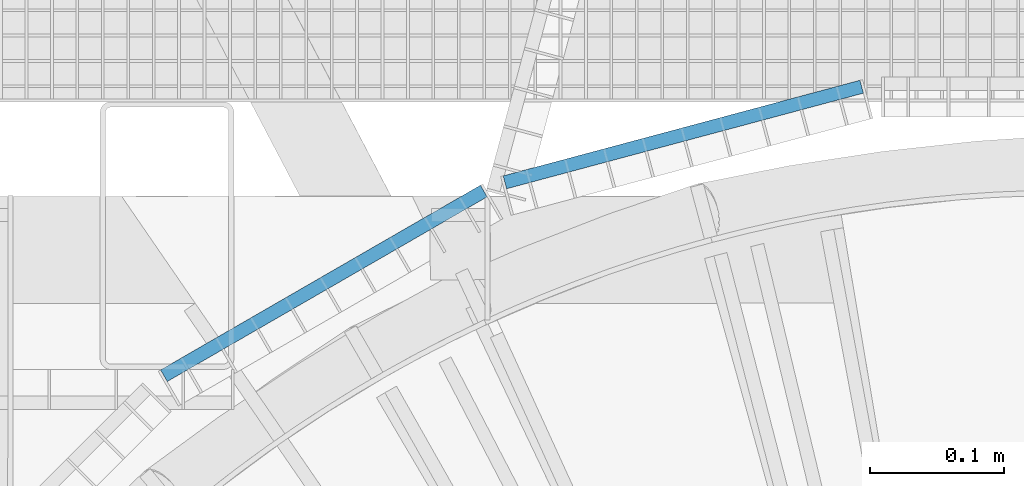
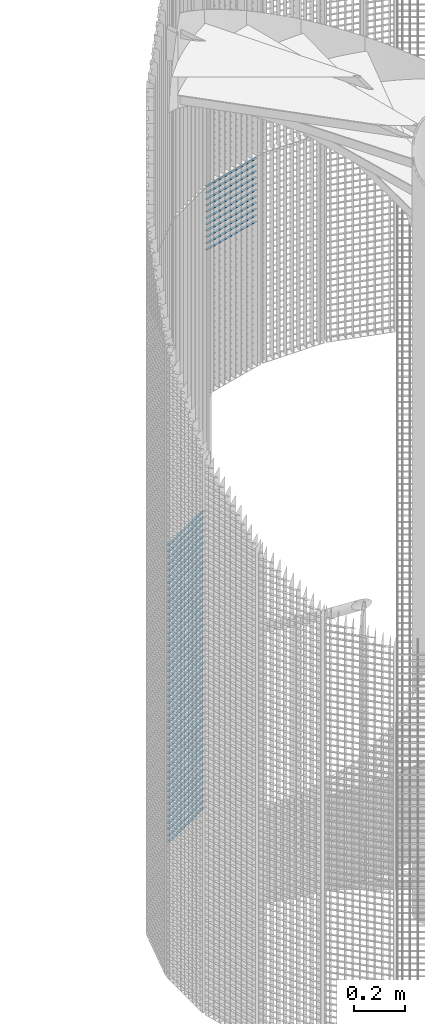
# One storey, part 312 of 1148: 59 beams, 2 elements without a shape of their own.
"""IFC2X3 building model written with IfcOpenShell, lengths in millimetres."""

import ifcopenshell
import ifcopenshell.guid

model = None  # the IFC model being written
_history = None  # IfcOwnerHistory: only IFC2X3 demands one
_inside = {}  # id of a spatial element -> (the spatial element, [elements in it])
_under = {}  # id of a project, library or spatial element -> (it, [spatial elements below it])
_declared = {}  # id of a project -> (the project, [libraries it declares])
_typed = {}  # id of a type object -> (the type object, [elements of that type])
_made_of = {}  # id of a material, layer set ... -> (it, [elements and type objects made of it])


def new_model(schema):
    """Start an empty IFC model of exactly this schema.

    Asked for "IFC4X3", IfcOpenShell would pick the latest addendum, in which some entities
    have other attributes; the version numbers below select the first issue.
    IFC2X3 requires an IfcOwnerHistory on every rooted entity: one is made here for all.
    """
    global model, _history
    if schema == "IFC4X3":
        model = ifcopenshell.file(schema_version=(4, 3, 0, 0))
    else:
        model = ifcopenshell.file(schema=schema)
    _inside.clear()
    _under.clear()
    _declared.clear()
    _typed.clear()
    _made_of.clear()
    _history = None
    if model.schema == "IFC2X3":
        org = make("IfcOrganization", Name="unknown")
        user = make(
            "IfcPersonAndOrganization",
            ThePerson=make("IfcPerson", FamilyName="unknown"),
            TheOrganization=org,
        )
        app = make(
            "IfcApplication",
            ApplicationDeveloper=org,
            Version="unknown",
            ApplicationFullName="unknown",
            ApplicationIdentifier="unknown",
        )
        _history = make(
            "IfcOwnerHistory",
            OwningUser=user,
            OwningApplication=app,
            ChangeAction="ADDED",
            CreationDate=0,
        )
    return model


def make(cls, **values):
    """One entity of the class cls with the attributes given. An attribute that is None is left unset."""
    return model.create_entity(
        cls, **{name: value for name, value in values.items() if value is not None}
    )


def rooted(cls, **values):
    """An entity with a GlobalId (a new one), such as an element, a storey or a relation."""
    return make(cls, GlobalId=ifcopenshell.guid.new(), OwnerHistory=_history, **values)


def si_unit(unit_type, name, prefix=None):
    """IfcSIUnit, for example si_unit("LENGTHUNIT", "METRE", prefix="MILLI")."""
    return make("IfcSIUnit", UnitType=unit_type, Prefix=prefix, Name=name)


def assignment(units):
    """IfcUnitAssignment: the units of a project."""
    return None if units is None else make("IfcUnitAssignment", Units=units)


def point(xyz):
    """IfcCartesianPoint."""
    return None if xyz is None else make("IfcCartesianPoint", Coordinates=xyz)


def direction(xyz):
    """IfcDirection."""
    return None if xyz is None else make("IfcDirection", DirectionRatios=xyz)


def frame(location, z_axis=None, x_axis=None):
    """IfcAxis2Placement3D, a coordinate frame: its origin and axes. An axis left out is left unset."""
    return make(
        "IfcAxis2Placement3D",
        Location=point(location),
        Axis=direction(z_axis),
        RefDirection=direction(x_axis),
    )


def frame_2d(location, x_axis=None):
    """IfcAxis2Placement2D, a coordinate frame in the plane: its origin and x axis."""
    return make(
        "IfcAxis2Placement2D", Location=point(location), RefDirection=direction(x_axis)
    )


def origin_with_axes():
    """The frame at (0, 0, 0) with the z axis (0, 0, 1) and the x axis (1, 0, 0) written out."""
    return frame((0.0, 0.0, 0.0), z_axis=(0.0, 0.0, 1.0), x_axis=(1.0, 0.0, 0.0))


def origin_2d_with_axis():
    """The frame at (0, 0) in the plane with the x axis (1, 0) written out."""
    return frame_2d((0.0, 0.0), x_axis=(1.0, 0.0))


def place(relative_to, where):
    """IfcLocalPlacement: puts the frame where relative to a parent placement (None: the world)."""
    return make(
        "IfcLocalPlacement", PlacementRelTo=relative_to, RelativePlacement=where
    )


def context(
    kind, dimensions, precision=None, world=None, true_north=None, identifier=None
):
    """IfcGeometricRepresentationContext, for example the 3D "Model" context."""
    return make(
        "IfcGeometricRepresentationContext",
        ContextIdentifier=identifier,
        ContextType=kind,
        CoordinateSpaceDimension=dimensions,
        Precision=precision,
        WorldCoordinateSystem=world,
        TrueNorth=true_north,
    )


def subcontext(parent, identifier, kind, view, scale=None):
    """IfcGeometricRepresentationSubContext, for example "Body" below "Model"."""
    return make(
        "IfcGeometricRepresentationSubContext",
        ContextIdentifier=identifier,
        ContextType=kind,
        ParentContext=parent,
        TargetScale=scale,
        TargetView=view,
    )


def project(units=None, contexts=None):
    """IfcProject with its units and contexts."""
    return rooted(
        "IfcProject",
        Name="project",
        RepresentationContexts=contexts,
        UnitsInContext=assignment(units),
    )


def spatial(cls, under=None, at=None, **own):
    """A site, building, storey or space (cls), placed at a placement, below another one or the project."""
    s = rooted(cls, ObjectPlacement=at, **own)
    if under is not None:
        _under.setdefault(under.id(), (under, []))[1].append(s)
    return s


def profile(cls, at=None, kind="AREA", **sizes):
    """A parametric profile (cls). Its sizes go by their IFC names, for example OverallWidth=200.0."""
    return make(cls, ProfileType=kind, Position=at, **sizes)


def rectangle(**sizes):
    """IfcRectangleProfileDef."""
    return profile("IfcRectangleProfileDef", **sizes)


def extrude(swept, where, along, depth):
    """IfcExtrudedAreaSolid: the profile swept, set in the frame where, extruded along a direction by depth."""
    return make(
        "IfcExtrudedAreaSolid",
        SweptArea=swept,
        Position=where,
        ExtrudedDirection=direction(along),
        Depth=depth,
    )


def shape(context_of_items, identifier, shape_type, items):
    """IfcShapeRepresentation: the items that make up one representation, for example the "Body"."""
    return make(
        "IfcShapeRepresentation",
        ContextOfItems=context_of_items,
        RepresentationIdentifier=identifier,
        RepresentationType=shape_type,
        Items=items,
    )


def material(Name=None, Category=None):
    """IfcMaterial."""
    return make("IfcMaterial", Name=Name, Category=Category)


def made_of(thing, what):
    """Note that an element or type object is made of a material, layer set ...; save() writes the relation."""
    if what is not None:
        _made_of.setdefault(what.id(), (what, []))[1].append(thing)
    return thing


def type_object(cls, material=None, **own):
    """A type object (cls), such as IfcWallType, which elements share."""
    return made_of(rooted(cls, **own), material)


def element(
    cls,
    number,
    at=None,
    inside=None,
    cuts=None,
    type_object=None,
    material=None,
    context=None,
    identifier="Body",
    shape_type=None,
    held_by="IfcProductDefinitionShape",
    body=None,
    shapes=None,
    **own,
):
    """One element of the class cls, such as IfcWall. Its Tag is "e" and its number.

    at: its placement. inside: the storey or other place that contains it. cuts: it is an
    opening in that element (IfcRelVoidsElement). A single representation is given by context,
    identifier, shape_type and body (its items); several are given by shapes. held_by: the class
    of the entity that holds the representations. save() writes the other relations.
    """
    e = rooted(cls, Tag="e%d" % number, ObjectPlacement=at, **own)
    if body is not None:
        shapes = [shape(context, identifier, shape_type, body)]
    if shapes is not None:
        e.Representation = make(held_by, Representations=shapes)
    if inside is not None:
        _inside.setdefault(inside.id(), (inside, []))[1].append(e)
    if cuts is not None:
        rooted(
            "IfcRelVoidsElement", RelatingBuildingElement=cuts, RelatedOpeningElement=e
        )
    if type_object is not None:
        _typed.setdefault(type_object.id(), (type_object, []))[1].append(e)
    return made_of(e, material)


def aggregate(whole, parts):
    """IfcRelAggregates: a whole, such as a stair, and the parts it consists of."""
    return rooted("IfcRelAggregates", RelatingObject=whole, RelatedObjects=parts)


def save(model, path):
    """Write the relations noted so far, then the file.

    IfcRelAggregates (storeys below a building ...), IfcRelContainedInSpatialStructure (elements
    in a storey), IfcRelDefinesByType, IfcRelAssociatesMaterial and IfcRelDeclares: one each for
    every whole, place, type object, material and project.
    """
    for whole, parts in _under.values():
        aggregate(whole, parts)
    for where, things in _inside.values():
        rooted(
            "IfcRelContainedInSpatialStructure",
            RelatedElements=things,
            RelatingStructure=where,
        )
    for kind, things in _typed.values():
        rooted("IfcRelDefinesByType", RelatedObjects=things, RelatingType=kind)
    for what, things in _made_of.values():
        rooted("IfcRelAssociatesMaterial", RelatedObjects=things, RelatingMaterial=what)
    for by, libraries in _declared.values():
        rooted("IfcRelDeclares", RelatingContext=by, RelatedDefinitions=libraries)
    model.write(path)


model = new_model("IFC2X3")

# Units and contexts
model_context = context("Model", 3, precision=1e-05, world=origin_with_axes())
body_context = subcontext(model_context, "Body", "Model", "MODEL_VIEW")
ifc_project = project(units=[si_unit("LENGTHUNIT", "METRE", prefix="MILLI"), si_unit("AREAUNIT", "SQUARE_METRE"), si_unit("VOLUMEUNIT", "CUBIC_METRE"), si_unit("MASSUNIT", "GRAM", prefix="KILO"), si_unit("TIMEUNIT", "SECOND"), si_unit("PLANEANGLEUNIT", "RADIAN"), si_unit("SOLIDANGLEUNIT", "STERADIAN"), si_unit("THERMODYNAMICTEMPERATUREUNIT", "DEGREE_CELSIUS"), si_unit("LUMINOUSINTENSITYUNIT", "LUMEN")], contexts=[model_context])

# Site, building, storey
site_placement = place(None, origin_with_axes())
site = spatial("IfcSite", under=ifc_project, at=site_placement, Name="Undefined", CompositionType="ELEMENT")
building_placement = place(site_placement, origin_with_axes())
building = spatial("IfcBuilding", under=site, at=building_placement, Name="Undefined", CompositionType="ELEMENT")
storey_placement = place(building_placement, origin_with_axes())
storey = spatial("IfcBuildingStorey", under=building, at=storey_placement, Name="Undefined", CompositionType="ELEMENT", Elevation=0.0)

# Assembly, beams
assembly_1_placement = place(storey_placement, origin_with_axes())
assembly_1 = element("IfcElementAssembly", 1, at=assembly_1_placement, inside=storey, Name="BORDURE", AssemblyPlace="NOTDEFINED", PredefinedType="NOTDEFINED")
ifc_material = material(Name="STEEL/S235JR")
beam_type = type_object("IfcBeamType", Name="PL2*10", PredefinedType="NOTDEFINED")
beam_1_placement = place(assembly_1_placement, frame((-437.23195545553, 1033.29996828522, 1440.0), z_axis=(-0.49999999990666, 0.866025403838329, 0.0), x_axis=(-0.866025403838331, -0.499999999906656, 0.0)))
beam_1 = element("IfcBeam", 2, at=beam_1_placement, type_object=beam_type, material=ifc_material, Name="ENTRETOISE", context=body_context, shape_type="SweptSolid", body=[
    extrude(rectangle(XDim=2.0, YDim=10.0, at=origin_2d_with_axis()), frame((275.999999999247, 9.09494701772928e-13, 1.53210777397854e-14), z_axis=(-1.0, 0.0, 0.0), x_axis=(0.0, -1.0, 0.0)), (0.0, 0.0, 1.0), 276.0),
])
beam_2_placement = place(assembly_1_placement, frame((-437.23195545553, 1033.29996828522, 1410.0), z_axis=(-0.49999999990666, 0.866025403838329, 0.0), x_axis=(-0.866025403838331, -0.499999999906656, 0.0)))
beam_2 = element("IfcBeam", 3, at=beam_2_placement, type_object=beam_type, material=ifc_material, Name="ENTRETOISE", context=body_context, shape_type="SweptSolid", body=[
    extrude(rectangle(XDim=2.0, YDim=10.0, at=origin_2d_with_axis()), frame((275.999999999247, 9.09494701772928e-13, 1.53210777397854e-14), z_axis=(-1.0, 0.0, 0.0), x_axis=(0.0, -1.0, 0.0)), (0.0, 0.0, 1.0), 276.0),
])
beam_3_placement = place(assembly_1_placement, frame((-437.23195545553, 1033.29996828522, 1380.0), z_axis=(-0.49999999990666, 0.866025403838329, 0.0), x_axis=(-0.866025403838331, -0.499999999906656, 0.0)))
beam_3 = element("IfcBeam", 4, at=beam_3_placement, type_object=beam_type, material=ifc_material, Name="ENTRETOISE", context=body_context, shape_type="SweptSolid", body=[
    extrude(rectangle(XDim=2.0, YDim=10.0, at=origin_2d_with_axis()), frame((275.999999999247, 9.09494701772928e-13, 1.53210777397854e-14), z_axis=(-1.0, 0.0, 0.0), x_axis=(0.0, -1.0, 0.0)), (0.0, 0.0, 1.0), 276.0),
])
beam_4_placement = place(assembly_1_placement, frame((-437.23195545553, 1033.29996828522, 1350.0), z_axis=(-0.49999999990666, 0.866025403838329, 0.0), x_axis=(-0.866025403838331, -0.499999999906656, 0.0)))
beam_4 = element("IfcBeam", 5, at=beam_4_placement, type_object=beam_type, material=ifc_material, Name="ENTRETOISE", context=body_context, shape_type="SweptSolid", body=[
    extrude(rectangle(XDim=2.0, YDim=10.0, at=origin_2d_with_axis()), frame((275.999999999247, 9.09494701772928e-13, 1.53210777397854e-14), z_axis=(-1.0, 0.0, 0.0), x_axis=(0.0, -1.0, 0.0)), (0.0, 0.0, 1.0), 276.0),
])
beam_5_placement = place(assembly_1_placement, frame((-437.23195545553, 1033.29996828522, 1320.0), z_axis=(-0.49999999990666, 0.866025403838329, 0.0), x_axis=(-0.866025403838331, -0.499999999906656, 0.0)))
beam_5 = element("IfcBeam", 6, at=beam_5_placement, type_object=beam_type, material=ifc_material, Name="ENTRETOISE", context=body_context, shape_type="SweptSolid", body=[
    extrude(rectangle(XDim=2.0, YDim=10.0, at=origin_2d_with_axis()), frame((275.999999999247, 9.09494701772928e-13, 1.53210777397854e-14), z_axis=(-1.0, 0.0, 0.0), x_axis=(0.0, -1.0, 0.0)), (0.0, 0.0, 1.0), 276.0),
])
beam_6_placement = place(assembly_1_placement, frame((-437.23195545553, 1033.29996828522, 1290.0), z_axis=(-0.49999999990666, 0.866025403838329, 0.0), x_axis=(-0.866025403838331, -0.499999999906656, 0.0)))
beam_6 = element("IfcBeam", 7, at=beam_6_placement, type_object=beam_type, material=ifc_material, Name="ENTRETOISE", context=body_context, shape_type="SweptSolid", body=[
    extrude(rectangle(XDim=2.0, YDim=10.0, at=origin_2d_with_axis()), frame((275.999999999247, 9.09494701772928e-13, 1.53210777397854e-14), z_axis=(-1.0, 0.0, 0.0), x_axis=(0.0, -1.0, 0.0)), (0.0, 0.0, 1.0), 276.0),
])
beam_7_placement = place(assembly_1_placement, frame((-437.23195545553, 1033.29996828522, 1260.0), z_axis=(-0.49999999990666, 0.866025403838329, 0.0), x_axis=(-0.866025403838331, -0.499999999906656, 0.0)))
beam_7 = element("IfcBeam", 8, at=beam_7_placement, type_object=beam_type, material=ifc_material, Name="ENTRETOISE", context=body_context, shape_type="SweptSolid", body=[
    extrude(rectangle(XDim=2.0, YDim=10.0, at=origin_2d_with_axis()), frame((275.999999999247, 9.09494701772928e-13, 1.53210777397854e-14), z_axis=(-1.0, 0.0, 0.0), x_axis=(0.0, -1.0, 0.0)), (0.0, 0.0, 1.0), 276.0),
])
beam_8_placement = place(assembly_1_placement, frame((-437.23195545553, 1033.29996828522, 1230.0), z_axis=(-0.49999999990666, 0.866025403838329, 0.0), x_axis=(-0.866025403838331, -0.499999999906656, 0.0)))
beam_8 = element("IfcBeam", 9, at=beam_8_placement, type_object=beam_type, material=ifc_material, Name="ENTRETOISE", context=body_context, shape_type="SweptSolid", body=[
    extrude(rectangle(XDim=2.0, YDim=10.0, at=origin_2d_with_axis()), frame((275.999999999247, 9.09494701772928e-13, 1.53210777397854e-14), z_axis=(-1.0, 0.0, 0.0), x_axis=(0.0, -1.0, 0.0)), (0.0, 0.0, 1.0), 276.0),
])
beam_9_placement = place(assembly_1_placement, frame((-437.23195545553, 1033.29996828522, 1200.0), z_axis=(-0.49999999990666, 0.866025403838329, 0.0), x_axis=(-0.866025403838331, -0.499999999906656, 0.0)))
beam_9 = element("IfcBeam", 10, at=beam_9_placement, type_object=beam_type, material=ifc_material, Name="ENTRETOISE", context=body_context, shape_type="SweptSolid", body=[
    extrude(rectangle(XDim=2.0, YDim=10.0, at=origin_2d_with_axis()), frame((275.999999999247, 9.09494701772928e-13, 1.53210777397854e-14), z_axis=(-1.0, 0.0, 0.0), x_axis=(0.0, -1.0, 0.0)), (0.0, 0.0, 1.0), 276.0),
])
beam_10_placement = place(assembly_1_placement, frame((-437.231955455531, 1033.29996828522, 1170.0), z_axis=(-0.49999999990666, 0.866025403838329, 0.0), x_axis=(-0.866025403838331, -0.499999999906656, 0.0)))
beam_10 = element("IfcBeam", 11, at=beam_10_placement, type_object=beam_type, material=ifc_material, Name="ENTRETOISE", context=body_context, shape_type="SweptSolid", body=[
    extrude(rectangle(XDim=2.0, YDim=10.0, at=origin_2d_with_axis()), frame((275.999999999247, 9.09494701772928e-13, 1.53210777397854e-14), z_axis=(-1.0, 0.0, 0.0), x_axis=(0.0, -1.0, 0.0)), (0.0, 0.0, 1.0), 276.0),
])
beam_11_placement = place(assembly_1_placement, frame((-437.231955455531, 1033.29996828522, 1140.0), z_axis=(-0.49999999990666, 0.866025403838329, 0.0), x_axis=(-0.866025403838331, -0.499999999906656, 0.0)))
beam_11 = element("IfcBeam", 12, at=beam_11_placement, type_object=beam_type, material=ifc_material, Name="ENTRETOISE", context=body_context, shape_type="SweptSolid", body=[
    extrude(rectangle(XDim=2.0, YDim=10.0, at=origin_2d_with_axis()), frame((275.999999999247, 9.09494701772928e-13, 1.53210777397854e-14), z_axis=(-1.0, 0.0, 0.0), x_axis=(0.0, -1.0, 0.0)), (0.0, 0.0, 1.0), 276.0),
])
beam_12_placement = place(assembly_1_placement, frame((-437.231955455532, 1033.29996828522, 719.999999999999), z_axis=(-0.49999999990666, 0.866025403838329, 0.0), x_axis=(-0.866025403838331, -0.499999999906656, 0.0)))
beam_12 = element("IfcBeam", 13, at=beam_12_placement, type_object=beam_type, material=ifc_material, Name="ENTRETOISE", context=body_context, shape_type="SweptSolid", body=[
    extrude(rectangle(XDim=2.0, YDim=10.0, at=origin_2d_with_axis()), frame((275.999999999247, 9.09494701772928e-13, 1.53210777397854e-14), z_axis=(-1.0, 0.0, 0.0), x_axis=(0.0, -1.0, 0.0)), (0.0, 0.0, 1.0), 276.0),
])
beam_13_placement = place(assembly_1_placement, frame((-437.231955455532, 1033.29996828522, 689.999999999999), z_axis=(-0.49999999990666, 0.866025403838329, 0.0), x_axis=(-0.866025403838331, -0.499999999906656, 0.0)))
beam_13 = element("IfcBeam", 14, at=beam_13_placement, type_object=beam_type, material=ifc_material, Name="ENTRETOISE", context=body_context, shape_type="SweptSolid", body=[
    extrude(rectangle(XDim=2.0, YDim=10.0, at=origin_2d_with_axis()), frame((275.999999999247, 9.09494701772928e-13, 1.53210777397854e-14), z_axis=(-1.0, 0.0, 0.0), x_axis=(0.0, -1.0, 0.0)), (0.0, 0.0, 1.0), 276.0),
])
beam_14_placement = place(assembly_1_placement, frame((-437.231955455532, 1033.29996828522, 749.999999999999), z_axis=(-0.49999999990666, 0.866025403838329, 0.0), x_axis=(-0.866025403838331, -0.499999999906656, 0.0)))
beam_14 = element("IfcBeam", 15, at=beam_14_placement, type_object=beam_type, material=ifc_material, Name="ENTRETOISE", context=body_context, shape_type="SweptSolid", body=[
    extrude(rectangle(XDim=2.0, YDim=10.0, at=origin_2d_with_axis()), frame((275.999999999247, 9.09494701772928e-13, 1.53210777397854e-14), z_axis=(-1.0, 0.0, 0.0), x_axis=(0.0, -1.0, 0.0)), (0.0, 0.0, 1.0), 276.0),
])
beam_15_placement = place(assembly_1_placement, frame((-437.231955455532, 1033.29996828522, 659.999999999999), z_axis=(-0.49999999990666, 0.866025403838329, 0.0), x_axis=(-0.866025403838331, -0.499999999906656, 0.0)))
beam_15 = element("IfcBeam", 16, at=beam_15_placement, type_object=beam_type, material=ifc_material, Name="ENTRETOISE", context=body_context, shape_type="SweptSolid", body=[
    extrude(rectangle(XDim=2.0, YDim=10.0, at=origin_2d_with_axis()), frame((275.999999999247, 9.09494701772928e-13, 1.53210777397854e-14), z_axis=(-1.0, 0.0, 0.0), x_axis=(0.0, -1.0, 0.0)), (0.0, 0.0, 1.0), 276.0),
])
beam_16_placement = place(assembly_1_placement, frame((-437.231955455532, 1033.29996828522, 629.999999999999), z_axis=(-0.49999999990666, 0.866025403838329, 0.0), x_axis=(-0.866025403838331, -0.499999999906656, 0.0)))
beam_16 = element("IfcBeam", 17, at=beam_16_placement, type_object=beam_type, material=ifc_material, Name="ENTRETOISE", context=body_context, shape_type="SweptSolid", body=[
    extrude(rectangle(XDim=2.0, YDim=10.0, at=origin_2d_with_axis()), frame((275.999999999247, 9.09494701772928e-13, 1.53210777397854e-14), z_axis=(-1.0, 0.0, 0.0), x_axis=(0.0, -1.0, 0.0)), (0.0, 0.0, 1.0), 276.0),
])
beam_17_placement = place(assembly_1_placement, frame((-437.231955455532, 1033.29996828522, 779.999999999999), z_axis=(-0.49999999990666, 0.866025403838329, 0.0), x_axis=(-0.866025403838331, -0.499999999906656, 0.0)))
beam_17 = element("IfcBeam", 18, at=beam_17_placement, type_object=beam_type, material=ifc_material, Name="ENTRETOISE", context=body_context, shape_type="SweptSolid", body=[
    extrude(rectangle(XDim=2.0, YDim=10.0, at=origin_2d_with_axis()), frame((275.999999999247, 9.09494701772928e-13, 1.53210777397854e-14), z_axis=(-1.0, 0.0, 0.0), x_axis=(0.0, -1.0, 0.0)), (0.0, 0.0, 1.0), 276.0),
])
beam_18_placement = place(assembly_1_placement, frame((-437.231955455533, 1033.29996828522, 599.999999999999), z_axis=(-0.49999999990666, 0.866025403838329, 0.0), x_axis=(-0.866025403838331, -0.499999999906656, 0.0)))
beam_18 = element("IfcBeam", 19, at=beam_18_placement, type_object=beam_type, material=ifc_material, Name="ENTRETOISE", context=body_context, shape_type="SweptSolid", body=[
    extrude(rectangle(XDim=2.0, YDim=10.0, at=origin_2d_with_axis()), frame((275.999999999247, 9.09494701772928e-13, 1.53210777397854e-14), z_axis=(-1.0, 0.0, 0.0), x_axis=(0.0, -1.0, 0.0)), (0.0, 0.0, 1.0), 276.0),
])
beam_19_placement = place(assembly_1_placement, frame((-437.231955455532, 1033.29996828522, 809.999999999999), z_axis=(-0.49999999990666, 0.866025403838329, 0.0), x_axis=(-0.866025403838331, -0.499999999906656, 0.0)))
beam_19 = element("IfcBeam", 20, at=beam_19_placement, type_object=beam_type, material=ifc_material, Name="ENTRETOISE", context=body_context, shape_type="SweptSolid", body=[
    extrude(rectangle(XDim=2.0, YDim=10.0, at=origin_2d_with_axis()), frame((275.999999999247, 9.09494701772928e-13, 1.53210777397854e-14), z_axis=(-1.0, 0.0, 0.0), x_axis=(0.0, -1.0, 0.0)), (0.0, 0.0, 1.0), 276.0),
])
beam_20_placement = place(assembly_1_placement, frame((-437.231955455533, 1033.29996828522, 569.999999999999), z_axis=(-0.49999999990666, 0.866025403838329, 0.0), x_axis=(-0.866025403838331, -0.499999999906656, 0.0)))
beam_20 = element("IfcBeam", 21, at=beam_20_placement, type_object=beam_type, material=ifc_material, Name="ENTRETOISE", context=body_context, shape_type="SweptSolid", body=[
    extrude(rectangle(XDim=2.0, YDim=10.0, at=origin_2d_with_axis()), frame((275.999999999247, 9.09494701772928e-13, 1.53210777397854e-14), z_axis=(-1.0, 0.0, 0.0), x_axis=(0.0, -1.0, 0.0)), (0.0, 0.0, 1.0), 276.0),
])
beam_21_placement = place(assembly_1_placement, frame((-437.231955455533, 1033.29996828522, 539.999999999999), z_axis=(-0.49999999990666, 0.866025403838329, 0.0), x_axis=(-0.866025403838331, -0.499999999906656, 0.0)))
beam_21 = element("IfcBeam", 22, at=beam_21_placement, type_object=beam_type, material=ifc_material, Name="ENTRETOISE", context=body_context, shape_type="SweptSolid", body=[
    extrude(rectangle(XDim=2.0, YDim=10.0, at=origin_2d_with_axis()), frame((275.999999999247, 9.09494701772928e-13, 1.53210777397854e-14), z_axis=(-1.0, 0.0, 0.0), x_axis=(0.0, -1.0, 0.0)), (0.0, 0.0, 1.0), 276.0),
])
beam_22_placement = place(assembly_1_placement, frame((-437.231955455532, 1033.29996828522, 839.999999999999), z_axis=(-0.49999999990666, 0.866025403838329, 0.0), x_axis=(-0.866025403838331, -0.499999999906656, 0.0)))
beam_22 = element("IfcBeam", 23, at=beam_22_placement, type_object=beam_type, material=ifc_material, Name="ENTRETOISE", context=body_context, shape_type="SweptSolid", body=[
    extrude(rectangle(XDim=2.0, YDim=10.0, at=origin_2d_with_axis()), frame((275.999999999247, 9.09494701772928e-13, 1.53210777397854e-14), z_axis=(-1.0, 0.0, 0.0), x_axis=(0.0, -1.0, 0.0)), (0.0, 0.0, 1.0), 276.0),
])
beam_23_placement = place(assembly_1_placement, frame((-437.231955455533, 1033.29996828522, 509.999999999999), z_axis=(-0.49999999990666, 0.866025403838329, 0.0), x_axis=(-0.866025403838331, -0.499999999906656, 0.0)))
beam_23 = element("IfcBeam", 24, at=beam_23_placement, type_object=beam_type, material=ifc_material, Name="ENTRETOISE", context=body_context, shape_type="SweptSolid", body=[
    extrude(rectangle(XDim=2.0, YDim=10.0, at=origin_2d_with_axis()), frame((275.999999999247, 9.09494701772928e-13, 1.53210777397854e-14), z_axis=(-1.0, 0.0, 0.0), x_axis=(0.0, -1.0, 0.0)), (0.0, 0.0, 1.0), 276.0),
])
beam_24_placement = place(assembly_1_placement, frame((-437.231955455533, 1033.29996828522, 479.999999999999), z_axis=(-0.49999999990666, 0.866025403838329, 0.0), x_axis=(-0.866025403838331, -0.499999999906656, 0.0)))
beam_24 = element("IfcBeam", 25, at=beam_24_placement, type_object=beam_type, material=ifc_material, Name="ENTRETOISE", context=body_context, shape_type="SweptSolid", body=[
    extrude(rectangle(XDim=2.0, YDim=10.0, at=origin_2d_with_axis()), frame((275.999999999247, 9.09494701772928e-13, 1.53210777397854e-14), z_axis=(-1.0, 0.0, 0.0), x_axis=(0.0, -1.0, 0.0)), (0.0, 0.0, 1.0), 276.0),
])
beam_25_placement = place(assembly_1_placement, frame((-437.231955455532, 1033.29996828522, 869.999999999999), z_axis=(-0.49999999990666, 0.866025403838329, 0.0), x_axis=(-0.866025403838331, -0.499999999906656, 0.0)))
beam_25 = element("IfcBeam", 26, at=beam_25_placement, type_object=beam_type, material=ifc_material, Name="ENTRETOISE", context=body_context, shape_type="SweptSolid", body=[
    extrude(rectangle(XDim=2.0, YDim=10.0, at=origin_2d_with_axis()), frame((275.999999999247, 9.09494701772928e-13, 1.53210777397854e-14), z_axis=(-1.0, 0.0, 0.0), x_axis=(0.0, -1.0, 0.0)), (0.0, 0.0, 1.0), 276.0),
])
beam_26_placement = place(assembly_1_placement, frame((-437.231955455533, 1033.29996828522, 449.999999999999), z_axis=(-0.49999999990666, 0.866025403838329, 0.0), x_axis=(-0.866025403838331, -0.499999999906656, 0.0)))
beam_26 = element("IfcBeam", 27, at=beam_26_placement, type_object=beam_type, material=ifc_material, Name="ENTRETOISE", context=body_context, shape_type="SweptSolid", body=[
    extrude(rectangle(XDim=2.0, YDim=10.0, at=origin_2d_with_axis()), frame((275.999999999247, 9.09494701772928e-13, 1.53210777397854e-14), z_axis=(-1.0, 0.0, 0.0), x_axis=(0.0, -1.0, 0.0)), (0.0, 0.0, 1.0), 276.0),
])
beam_27_placement = place(assembly_1_placement, frame((-437.231955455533, 1033.29996828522, 419.999999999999), z_axis=(-0.49999999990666, 0.866025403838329, 0.0), x_axis=(-0.866025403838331, -0.499999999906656, 0.0)))
beam_27 = element("IfcBeam", 28, at=beam_27_placement, type_object=beam_type, material=ifc_material, Name="ENTRETOISE", context=body_context, shape_type="SweptSolid", body=[
    extrude(rectangle(XDim=2.0, YDim=10.0, at=origin_2d_with_axis()), frame((275.999999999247, 9.09494701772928e-13, 1.53210777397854e-14), z_axis=(-1.0, 0.0, 0.0), x_axis=(0.0, -1.0, 0.0)), (0.0, 0.0, 1.0), 276.0),
])
beam_28_placement = place(assembly_1_placement, frame((-437.231955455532, 1033.29996828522, 899.999999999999), z_axis=(-0.49999999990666, 0.866025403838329, 0.0), x_axis=(-0.866025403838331, -0.499999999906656, 0.0)))
beam_28 = element("IfcBeam", 29, at=beam_28_placement, type_object=beam_type, material=ifc_material, Name="ENTRETOISE", context=body_context, shape_type="SweptSolid", body=[
    extrude(rectangle(XDim=2.0, YDim=10.0, at=origin_2d_with_axis()), frame((275.999999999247, 9.09494701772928e-13, 1.53210777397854e-14), z_axis=(-1.0, 0.0, 0.0), x_axis=(0.0, -1.0, 0.0)), (0.0, 0.0, 1.0), 276.0),
])
beam_29_placement = place(assembly_1_placement, frame((-437.231955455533, 1033.29996828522, 389.999999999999), z_axis=(-0.49999999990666, 0.866025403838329, 0.0), x_axis=(-0.866025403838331, -0.499999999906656, 0.0)))
beam_29 = element("IfcBeam", 30, at=beam_29_placement, type_object=beam_type, material=ifc_material, Name="ENTRETOISE", context=body_context, shape_type="SweptSolid", body=[
    extrude(rectangle(XDim=2.0, YDim=10.0, at=origin_2d_with_axis()), frame((275.999999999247, 9.09494701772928e-13, 1.53210777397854e-14), z_axis=(-1.0, 0.0, 0.0), x_axis=(0.0, -1.0, 0.0)), (0.0, 0.0, 1.0), 276.0),
])
beam_30_placement = place(assembly_1_placement, frame((-437.231955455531, 1033.29996828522, 929.999999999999), z_axis=(-0.49999999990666, 0.866025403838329, 0.0), x_axis=(-0.866025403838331, -0.499999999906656, 0.0)))
beam_30 = element("IfcBeam", 31, at=beam_30_placement, type_object=beam_type, material=ifc_material, Name="ENTRETOISE", context=body_context, shape_type="SweptSolid", body=[
    extrude(rectangle(XDim=2.0, YDim=10.0, at=origin_2d_with_axis()), frame((275.999999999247, 9.09494701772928e-13, 1.53210777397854e-14), z_axis=(-1.0, 0.0, 0.0), x_axis=(0.0, -1.0, 0.0)), (0.0, 0.0, 1.0), 276.0),
])
beam_31_placement = place(assembly_1_placement, frame((-437.231955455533, 1033.29996828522, 359.999999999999), z_axis=(-0.49999999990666, 0.866025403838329, 0.0), x_axis=(-0.866025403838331, -0.499999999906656, 0.0)))
beam_31 = element("IfcBeam", 32, at=beam_31_placement, type_object=beam_type, material=ifc_material, Name="ENTRETOISE", context=body_context, shape_type="SweptSolid", body=[
    extrude(rectangle(XDim=2.0, YDim=10.0, at=origin_2d_with_axis()), frame((275.999999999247, 9.09494701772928e-13, 1.53210777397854e-14), z_axis=(-1.0, 0.0, 0.0), x_axis=(0.0, -1.0, 0.0)), (0.0, 0.0, 1.0), 276.0),
])
beam_32_placement = place(assembly_1_placement, frame((-437.231955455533, 1033.29996828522, 329.999999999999), z_axis=(-0.49999999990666, 0.866025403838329, 0.0), x_axis=(-0.866025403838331, -0.499999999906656, 0.0)))
beam_32 = element("IfcBeam", 33, at=beam_32_placement, type_object=beam_type, material=ifc_material, Name="ENTRETOISE", context=body_context, shape_type="SweptSolid", body=[
    extrude(rectangle(XDim=2.0, YDim=10.0, at=origin_2d_with_axis()), frame((275.999999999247, 9.09494701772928e-13, 1.53210777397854e-14), z_axis=(-1.0, 0.0, 0.0), x_axis=(0.0, -1.0, 0.0)), (0.0, 0.0, 1.0), 276.0),
])
beam_33_placement = place(assembly_1_placement, frame((-437.231955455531, 1033.29996828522, 959.999999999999), z_axis=(-0.49999999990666, 0.866025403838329, 0.0), x_axis=(-0.866025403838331, -0.499999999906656, 0.0)))
beam_33 = element("IfcBeam", 34, at=beam_33_placement, type_object=beam_type, material=ifc_material, Name="ENTRETOISE", context=body_context, shape_type="SweptSolid", body=[
    extrude(rectangle(XDim=2.0, YDim=10.0, at=origin_2d_with_axis()), frame((275.999999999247, 9.09494701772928e-13, 1.53210777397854e-14), z_axis=(-1.0, 0.0, 0.0), x_axis=(0.0, -1.0, 0.0)), (0.0, 0.0, 1.0), 276.0),
])
beam_34_placement = place(assembly_1_placement, frame((-437.231955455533, 1033.29996828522, 299.999999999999), z_axis=(-0.49999999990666, 0.866025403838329, 0.0), x_axis=(-0.866025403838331, -0.499999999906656, 0.0)))
beam_34 = element("IfcBeam", 35, at=beam_34_placement, type_object=beam_type, material=ifc_material, Name="ENTRETOISE", context=body_context, shape_type="SweptSolid", body=[
    extrude(rectangle(XDim=2.0, YDim=10.0, at=origin_2d_with_axis()), frame((275.999999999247, 9.09494701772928e-13, 1.53210777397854e-14), z_axis=(-1.0, 0.0, 0.0), x_axis=(0.0, -1.0, 0.0)), (0.0, 0.0, 1.0), 276.0),
])
beam_35_placement = place(assembly_1_placement, frame((-437.231955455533, 1033.29996828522, 269.999999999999), z_axis=(-0.49999999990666, 0.866025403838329, 0.0), x_axis=(-0.866025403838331, -0.499999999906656, 0.0)))
beam_35 = element("IfcBeam", 36, at=beam_35_placement, type_object=beam_type, material=ifc_material, Name="ENTRETOISE", context=body_context, shape_type="SweptSolid", body=[
    extrude(rectangle(XDim=2.0, YDim=10.0, at=origin_2d_with_axis()), frame((275.999999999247, 9.09494701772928e-13, 1.53210777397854e-14), z_axis=(-1.0, 0.0, 0.0), x_axis=(0.0, -1.0, 0.0)), (0.0, 0.0, 1.0), 276.0),
])
beam_36_placement = place(assembly_1_placement, frame((-437.231955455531, 1033.29996828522, 989.999999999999), z_axis=(-0.49999999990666, 0.866025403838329, 0.0), x_axis=(-0.866025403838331, -0.499999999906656, 0.0)))
beam_36 = element("IfcBeam", 37, at=beam_36_placement, type_object=beam_type, material=ifc_material, Name="ENTRETOISE", context=body_context, shape_type="SweptSolid", body=[
    extrude(rectangle(XDim=2.0, YDim=10.0, at=origin_2d_with_axis()), frame((275.999999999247, 9.09494701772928e-13, 1.53210777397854e-14), z_axis=(-1.0, 0.0, 0.0), x_axis=(0.0, -1.0, 0.0)), (0.0, 0.0, 1.0), 276.0),
])
beam_37_placement = place(assembly_1_placement, frame((-437.231955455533, 1033.29996828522, 239.999999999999), z_axis=(-0.49999999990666, 0.866025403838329, 0.0), x_axis=(-0.866025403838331, -0.499999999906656, 0.0)))
beam_37 = element("IfcBeam", 38, at=beam_37_placement, type_object=beam_type, material=ifc_material, Name="ENTRETOISE", context=body_context, shape_type="SweptSolid", body=[
    extrude(rectangle(XDim=2.0, YDim=10.0, at=origin_2d_with_axis()), frame((275.999999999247, 9.09494701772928e-13, 1.53210777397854e-14), z_axis=(-1.0, 0.0, 0.0), x_axis=(0.0, -1.0, 0.0)), (0.0, 0.0, 1.0), 276.0),
])
beam_38_placement = place(assembly_1_placement, frame((-437.231955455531, 1033.29996828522, 1020.0), z_axis=(-0.49999999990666, 0.866025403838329, 0.0), x_axis=(-0.866025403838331, -0.499999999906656, 0.0)))
beam_38 = element("IfcBeam", 39, at=beam_38_placement, type_object=beam_type, material=ifc_material, Name="ENTRETOISE", context=body_context, shape_type="SweptSolid", body=[
    extrude(rectangle(XDim=2.0, YDim=10.0, at=origin_2d_with_axis()), frame((275.999999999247, 9.09494701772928e-13, 1.53210777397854e-14), z_axis=(-1.0, 0.0, 0.0), x_axis=(0.0, -1.0, 0.0)), (0.0, 0.0, 1.0), 276.0),
])
beam_39_placement = place(assembly_1_placement, frame((-437.231955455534, 1033.29996828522, 209.999999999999), z_axis=(-0.49999999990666, 0.866025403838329, 0.0), x_axis=(-0.866025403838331, -0.499999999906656, 0.0)))
beam_39 = element("IfcBeam", 40, at=beam_39_placement, type_object=beam_type, material=ifc_material, Name="ENTRETOISE", context=body_context, shape_type="SweptSolid", body=[
    extrude(rectangle(XDim=2.0, YDim=10.0, at=origin_2d_with_axis()), frame((275.999999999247, 9.09494701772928e-13, 1.53210777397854e-14), z_axis=(-1.0, 0.0, 0.0), x_axis=(0.0, -1.0, 0.0)), (0.0, 0.0, 1.0), 276.0),
])
beam_40_placement = place(assembly_1_placement, frame((-437.231955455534, 1033.29996828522, 179.999999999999), z_axis=(-0.49999999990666, 0.866025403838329, 0.0), x_axis=(-0.866025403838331, -0.499999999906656, 0.0)))
beam_40 = element("IfcBeam", 41, at=beam_40_placement, type_object=beam_type, material=ifc_material, Name="ENTRETOISE", context=body_context, shape_type="SweptSolid", body=[
    extrude(rectangle(XDim=2.0, YDim=10.0, at=origin_2d_with_axis()), frame((275.999999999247, 9.09494701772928e-13, 1.53210777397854e-14), z_axis=(-1.0, 0.0, 0.0), x_axis=(0.0, -1.0, 0.0)), (0.0, 0.0, 1.0), 276.0),
])
beam_41_placement = place(assembly_1_placement, frame((-437.231955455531, 1033.29996828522, 1050.0), z_axis=(-0.49999999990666, 0.866025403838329, 0.0), x_axis=(-0.866025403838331, -0.499999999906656, 0.0)))
beam_41 = element("IfcBeam", 42, at=beam_41_placement, type_object=beam_type, material=ifc_material, Name="ENTRETOISE", context=body_context, shape_type="SweptSolid", body=[
    extrude(rectangle(XDim=2.0, YDim=10.0, at=origin_2d_with_axis()), frame((275.999999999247, 9.09494701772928e-13, 1.53210777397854e-14), z_axis=(-1.0, 0.0, 0.0), x_axis=(0.0, -1.0, 0.0)), (0.0, 0.0, 1.0), 276.0),
])
beam_42_placement = place(assembly_1_placement, frame((-437.231955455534, 1033.29996828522, 149.999999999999), z_axis=(-0.49999999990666, 0.866025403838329, 0.0), x_axis=(-0.866025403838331, -0.499999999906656, 0.0)))
beam_42 = element("IfcBeam", 43, at=beam_42_placement, type_object=beam_type, material=ifc_material, Name="ENTRETOISE", context=body_context, shape_type="SweptSolid", body=[
    extrude(rectangle(XDim=2.0, YDim=10.0, at=origin_2d_with_axis()), frame((275.999999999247, 9.09494701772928e-13, 1.53210777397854e-14), z_axis=(-1.0, 0.0, 0.0), x_axis=(0.0, -1.0, 0.0)), (0.0, 0.0, 1.0), 276.0),
])
beam_43_placement = place(assembly_1_placement, frame((-437.231955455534, 1033.29996828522, 119.999999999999), z_axis=(-0.49999999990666, 0.866025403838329, 0.0), x_axis=(-0.866025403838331, -0.499999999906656, 0.0)))
beam_43 = element("IfcBeam", 44, at=beam_43_placement, type_object=beam_type, material=ifc_material, Name="ENTRETOISE", context=body_context, shape_type="SweptSolid", body=[
    extrude(rectangle(XDim=2.0, YDim=10.0, at=origin_2d_with_axis()), frame((275.999999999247, 9.09494701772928e-13, 1.53210777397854e-14), z_axis=(-1.0, 0.0, 0.0), x_axis=(0.0, -1.0, 0.0)), (0.0, 0.0, 1.0), 276.0),
])
beam_44_placement = place(assembly_1_placement, frame((-437.231955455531, 1033.29996828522, 1080.0), z_axis=(-0.49999999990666, 0.866025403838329, 0.0), x_axis=(-0.866025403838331, -0.499999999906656, 0.0)))
beam_44 = element("IfcBeam", 45, at=beam_44_placement, type_object=beam_type, material=ifc_material, Name="ENTRETOISE", context=body_context, shape_type="SweptSolid", body=[
    extrude(rectangle(XDim=2.0, YDim=10.0, at=origin_2d_with_axis()), frame((275.999999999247, 9.09494701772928e-13, 1.53210777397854e-14), z_axis=(-1.0, 0.0, 0.0), x_axis=(0.0, -1.0, 0.0)), (0.0, 0.0, 1.0), 276.0),
])
beam_45_placement = place(assembly_1_placement, frame((-437.231955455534, 1033.29996828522, 89.9999999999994), z_axis=(-0.49999999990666, 0.866025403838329, 0.0), x_axis=(-0.866025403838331, -0.499999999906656, 0.0)))
beam_45 = element("IfcBeam", 46, at=beam_45_placement, type_object=beam_type, material=ifc_material, Name="ENTRETOISE", context=body_context, shape_type="SweptSolid", body=[
    extrude(rectangle(XDim=2.0, YDim=10.0, at=origin_2d_with_axis()), frame((275.999999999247, 9.09494701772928e-13, 1.53210777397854e-14), z_axis=(-1.0, 0.0, 0.0), x_axis=(0.0, -1.0, 0.0)), (0.0, 0.0, 1.0), 276.0),
])
beam_46_placement = place(assembly_1_placement, frame((-437.231955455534, 1033.29996828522, 59.9999999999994), z_axis=(-0.49999999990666, 0.866025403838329, 0.0), x_axis=(-0.866025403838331, -0.499999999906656, 0.0)))
beam_46 = element("IfcBeam", 47, at=beam_46_placement, type_object=beam_type, material=ifc_material, Name="ENTRETOISE", context=body_context, shape_type="SweptSolid", body=[
    extrude(rectangle(XDim=2.0, YDim=10.0, at=origin_2d_with_axis()), frame((275.999999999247, 9.09494701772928e-13, 1.53210777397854e-14), z_axis=(-1.0, 0.0, 0.0), x_axis=(0.0, -1.0, 0.0)), (0.0, 0.0, 1.0), 276.0),
])
beam_47_placement = place(assembly_1_placement, frame((-437.231955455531, 1033.29996828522, 1110.0), z_axis=(-0.49999999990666, 0.866025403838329, 0.0), x_axis=(-0.866025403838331, -0.499999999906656, 0.0)))
beam_47 = element("IfcBeam", 48, at=beam_47_placement, type_object=beam_type, material=ifc_material, Name="ENTRETOISE", context=body_context, shape_type="SweptSolid", body=[
    extrude(rectangle(XDim=2.0, YDim=10.0, at=origin_2d_with_axis()), frame((275.999999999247, 9.09494701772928e-13, 1.53210777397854e-14), z_axis=(-1.0, 0.0, 0.0), x_axis=(0.0, -1.0, 0.0)), (0.0, 0.0, 1.0), 276.0),
])
beam_48_placement = place(assembly_1_placement, frame((-437.231955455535, 1033.29996828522, 29.9999999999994), z_axis=(-0.49999999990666, 0.866025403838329, 0.0), x_axis=(-0.866025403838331, -0.499999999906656, 0.0)))
beam_48 = element("IfcBeam", 49, at=beam_48_placement, type_object=beam_type, material=ifc_material, Name="ENTRETOISE", context=body_context, shape_type="SweptSolid", body=[
    extrude(rectangle(XDim=2.0, YDim=10.0, at=origin_2d_with_axis()), frame((275.999999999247, 9.09494701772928e-13, 1.53210777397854e-14), z_axis=(-1.0, 0.0, 0.0), x_axis=(0.0, -1.0, 0.0)), (0.0, 0.0, 1.0), 276.0),
])
aggregate(assembly_1, [beam_1, beam_2, beam_3, beam_4, beam_5, beam_6, beam_7, beam_8, beam_9, beam_10, beam_11, beam_12, beam_13, beam_14, beam_15, beam_16, beam_17, beam_18, beam_19, beam_20, beam_21, beam_22, beam_23, beam_24, beam_25, beam_26, beam_27, beam_28, beam_29, beam_30, beam_31, beam_32, beam_33, beam_34, beam_35, beam_36, beam_37, beam_38, beam_39, beam_40, beam_41, beam_42, beam_43, beam_44, beam_45, beam_46, beam_47, beam_48])

assembly_2_placement = place(storey_placement, origin_with_axes())
assembly_2 = element("IfcElementAssembly", 50, at=assembly_2_placement, inside=storey, Name="BORDURE", AssemblyPlace="NOTDEFINED", PredefinedType="NOTDEFINED")
beam_49_placement = place(assembly_2_placement, frame((-154.895926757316, 1111.25508286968, 2970.0), z_axis=(-0.258819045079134, 0.965925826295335, 0.0), x_axis=(-0.965925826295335, -0.258819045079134, 0.0)))
beam_49 = element("IfcBeam", 51, at=beam_49_placement, type_object=beam_type, material=ifc_material, Name="ENTRETOISE", context=body_context, shape_type="SweptSolid", body=[
    extrude(rectangle(XDim=2.0, YDim=10.0, at=origin_2d_with_axis()), frame((275.999999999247, 9.09494701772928e-13, 1.53210777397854e-14), z_axis=(-1.0, 0.0, 0.0), x_axis=(0.0, -1.0, 0.0)), (0.0, 0.0, 1.0), 276.0),
])
beam_50_placement = place(assembly_2_placement, frame((-154.895926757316, 1111.25508286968, 2940.0), z_axis=(-0.258819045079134, 0.965925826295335, 0.0), x_axis=(-0.965925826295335, -0.258819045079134, 0.0)))
beam_50 = element("IfcBeam", 52, at=beam_50_placement, type_object=beam_type, material=ifc_material, Name="ENTRETOISE", context=body_context, shape_type="SweptSolid", body=[
    extrude(rectangle(XDim=2.0, YDim=10.0, at=origin_2d_with_axis()), frame((275.999999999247, 9.09494701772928e-13, 1.53210777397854e-14), z_axis=(-1.0, 0.0, 0.0), x_axis=(0.0, -1.0, 0.0)), (0.0, 0.0, 1.0), 276.0),
])
beam_51_placement = place(assembly_2_placement, frame((-154.895926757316, 1111.25508286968, 2910.0), z_axis=(-0.258819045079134, 0.965925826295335, 0.0), x_axis=(-0.965925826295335, -0.258819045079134, 0.0)))
beam_51 = element("IfcBeam", 53, at=beam_51_placement, type_object=beam_type, material=ifc_material, Name="ENTRETOISE", context=body_context, shape_type="SweptSolid", body=[
    extrude(rectangle(XDim=2.0, YDim=10.0, at=origin_2d_with_axis()), frame((275.999999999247, 9.09494701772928e-13, 1.53210777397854e-14), z_axis=(-1.0, 0.0, 0.0), x_axis=(0.0, -1.0, 0.0)), (0.0, 0.0, 1.0), 276.0),
])
beam_52_placement = place(assembly_2_placement, frame((-154.895926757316, 1111.25508286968, 2880.0), z_axis=(-0.258819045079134, 0.965925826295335, 0.0), x_axis=(-0.965925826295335, -0.258819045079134, 0.0)))
beam_52 = element("IfcBeam", 54, at=beam_52_placement, type_object=beam_type, material=ifc_material, Name="ENTRETOISE", context=body_context, shape_type="SweptSolid", body=[
    extrude(rectangle(XDim=2.0, YDim=10.0, at=origin_2d_with_axis()), frame((275.999999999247, 9.09494701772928e-13, 1.53210777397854e-14), z_axis=(-1.0, 0.0, 0.0), x_axis=(0.0, -1.0, 0.0)), (0.0, 0.0, 1.0), 276.0),
])
beam_53_placement = place(assembly_2_placement, frame((-154.895926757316, 1111.25508286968, 2850.0), z_axis=(-0.258819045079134, 0.965925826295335, 0.0), x_axis=(-0.965925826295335, -0.258819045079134, 0.0)))
beam_53 = element("IfcBeam", 55, at=beam_53_placement, type_object=beam_type, material=ifc_material, Name="ENTRETOISE", context=body_context, shape_type="SweptSolid", body=[
    extrude(rectangle(XDim=2.0, YDim=10.0, at=origin_2d_with_axis()), frame((275.999999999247, 9.09494701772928e-13, 1.53210777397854e-14), z_axis=(-1.0, 0.0, 0.0), x_axis=(0.0, -1.0, 0.0)), (0.0, 0.0, 1.0), 276.0),
])
beam_54_placement = place(assembly_2_placement, frame((-154.895926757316, 1111.25508286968, 2820.0), z_axis=(-0.258819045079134, 0.965925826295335, 0.0), x_axis=(-0.965925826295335, -0.258819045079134, 0.0)))
beam_54 = element("IfcBeam", 56, at=beam_54_placement, type_object=beam_type, material=ifc_material, Name="ENTRETOISE", context=body_context, shape_type="SweptSolid", body=[
    extrude(rectangle(XDim=2.0, YDim=10.0, at=origin_2d_with_axis()), frame((275.999999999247, 9.09494701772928e-13, 1.53210777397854e-14), z_axis=(-1.0, 0.0, 0.0), x_axis=(0.0, -1.0, 0.0)), (0.0, 0.0, 1.0), 276.0),
])
beam_55_placement = place(assembly_2_placement, frame((-154.895926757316, 1111.25508286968, 2790.0), z_axis=(-0.258819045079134, 0.965925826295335, 0.0), x_axis=(-0.965925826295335, -0.258819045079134, 0.0)))
beam_55 = element("IfcBeam", 57, at=beam_55_placement, type_object=beam_type, material=ifc_material, Name="ENTRETOISE", context=body_context, shape_type="SweptSolid", body=[
    extrude(rectangle(XDim=2.0, YDim=10.0, at=origin_2d_with_axis()), frame((275.999999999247, 9.09494701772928e-13, 1.53210777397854e-14), z_axis=(-1.0, 0.0, 0.0), x_axis=(0.0, -1.0, 0.0)), (0.0, 0.0, 1.0), 276.0),
])
beam_56_placement = place(assembly_2_placement, frame((-154.895926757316, 1111.25508286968, 2760.0), z_axis=(-0.258819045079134, 0.965925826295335, 0.0), x_axis=(-0.965925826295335, -0.258819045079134, 0.0)))
beam_56 = element("IfcBeam", 58, at=beam_56_placement, type_object=beam_type, material=ifc_material, Name="ENTRETOISE", context=body_context, shape_type="SweptSolid", body=[
    extrude(rectangle(XDim=2.0, YDim=10.0, at=origin_2d_with_axis()), frame((275.999999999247, 9.09494701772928e-13, 1.53210777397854e-14), z_axis=(-1.0, 0.0, 0.0), x_axis=(0.0, -1.0, 0.0)), (0.0, 0.0, 1.0), 276.0),
])
beam_57_placement = place(assembly_2_placement, frame((-154.895926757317, 1111.25508286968, 2730.0), z_axis=(-0.258819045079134, 0.965925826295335, 0.0), x_axis=(-0.965925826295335, -0.258819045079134, 0.0)))
beam_57 = element("IfcBeam", 59, at=beam_57_placement, type_object=beam_type, material=ifc_material, Name="ENTRETOISE", context=body_context, shape_type="SweptSolid", body=[
    extrude(rectangle(XDim=2.0, YDim=10.0, at=origin_2d_with_axis()), frame((275.999999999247, 9.09494701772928e-13, 1.53210777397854e-14), z_axis=(-1.0, 0.0, 0.0), x_axis=(0.0, -1.0, 0.0)), (0.0, 0.0, 1.0), 276.0),
])
beam_58_placement = place(assembly_2_placement, frame((-154.895926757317, 1111.25508286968, 2700.0), z_axis=(-0.258819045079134, 0.965925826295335, 0.0), x_axis=(-0.965925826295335, -0.258819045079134, 0.0)))
beam_58 = element("IfcBeam", 60, at=beam_58_placement, type_object=beam_type, material=ifc_material, Name="ENTRETOISE", context=body_context, shape_type="SweptSolid", body=[
    extrude(rectangle(XDim=2.0, YDim=10.0, at=origin_2d_with_axis()), frame((275.999999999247, 9.09494701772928e-13, 1.53210777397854e-14), z_axis=(-1.0, 0.0, 0.0), x_axis=(0.0, -1.0, 0.0)), (0.0, 0.0, 1.0), 276.0),
])
beam_59_placement = place(assembly_2_placement, frame((-154.895926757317, 1111.25508286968, 2670.0), z_axis=(-0.258819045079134, 0.965925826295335, 0.0), x_axis=(-0.965925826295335, -0.258819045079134, 0.0)))
beam_59 = element("IfcBeam", 61, at=beam_59_placement, type_object=beam_type, material=ifc_material, Name="ENTRETOISE", context=body_context, shape_type="SweptSolid", body=[
    extrude(rectangle(XDim=2.0, YDim=10.0, at=origin_2d_with_axis()), frame((275.999999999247, 9.09494701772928e-13, 1.53210777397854e-14), z_axis=(-1.0, 0.0, 0.0), x_axis=(0.0, -1.0, 0.0)), (0.0, 0.0, 1.0), 276.0),
])
aggregate(assembly_2, [beam_49, beam_50, beam_51, beam_52, beam_53, beam_54, beam_55, beam_56, beam_57, beam_58, beam_59])

save(model, "model.ifc")
